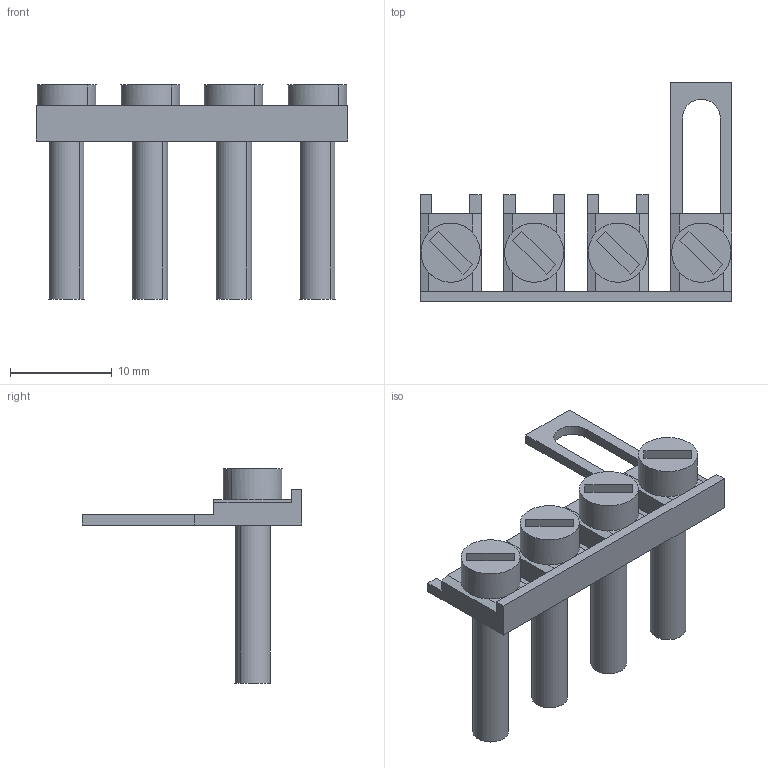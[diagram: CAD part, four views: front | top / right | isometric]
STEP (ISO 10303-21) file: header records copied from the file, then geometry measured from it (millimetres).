
FILE_DESCRIPTION(('Creo Elements/Direct Modeling STEP Export'),'2;1');
FILE_NAME('C:/temp/JobSpoolerServerData/JobServer Files/9d07194d-cf06-48c2-8cc6-38ed49209e1b/work/output/model.stp','2020-05-06T 0:14:39',(''),(''),'Creo Elements/Direct Modeling STEP processor for AP214 (Solid Model)','Creo Elements/Direct Modeling 20.1A 29-Sep-2018 (C) Parametric Technology GmbH','');
FILE_SCHEMA(('AUTOMOTIVE_DESIGN { 1 0 10303 214 1 1 1 1 }'));
Length unit declared in the file: millimetre
Products named in the file (2): SB_4_RTK_S-select
Assembly tree (1 placements, depth 2):
  SB_4_RTK_S-select
    SB_4_RTK_S-select
Bounding box: 30.6 x 21.5 x 21 mm (x, y, z)
Volume: 1455.1 mm3; surface area: 2023.9 mm2
Topology: 1 solids, 1 shells, 115 faces, 294 edges, 188 vertices
Faces by surface type: plane 94, cylinder 21
Entity records: 4096 total; most frequent: ORIENTED_EDGE 588, CARTESIAN_POINT 534, DIRECTION 474, EDGE_CURVE 294, VECTOR 218, LINE 218, VERTEX_POINT 188, AXIS2_PLACEMENT_3D 128
